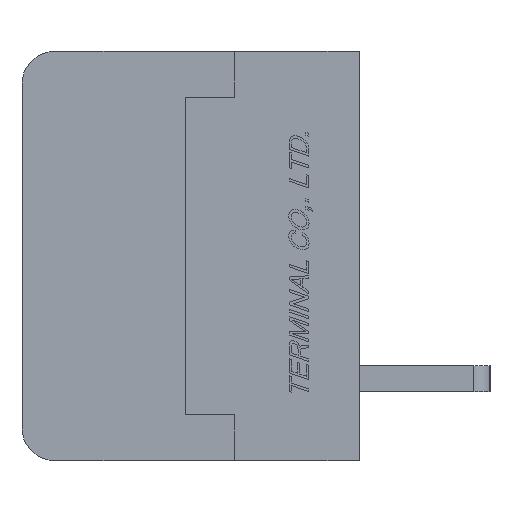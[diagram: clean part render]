
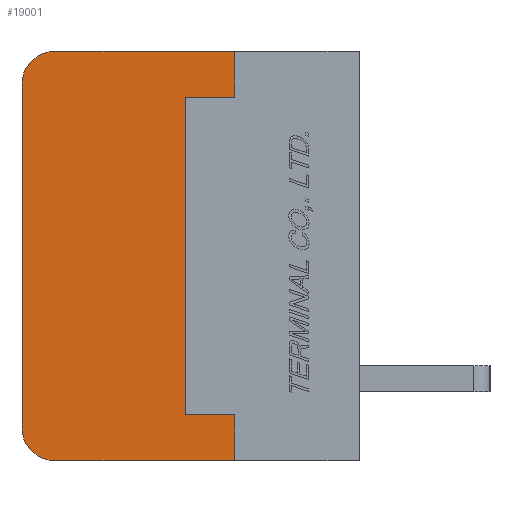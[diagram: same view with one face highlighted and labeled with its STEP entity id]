
A CAD part, left-side view. The second image highlights one B-rep face of the part: STEP entity #19001.
In plain terms, the highlighted planar face has unit normal (-1, 0, 0).
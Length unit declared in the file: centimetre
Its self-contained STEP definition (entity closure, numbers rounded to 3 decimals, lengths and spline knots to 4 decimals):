
#1049=CIRCLE('',#32279,0.1);
#1051=CIRCLE('',#32282,0.1);
#2619=VERTEX_POINT('',#29606);
#2620=VERTEX_POINT('',#29608);
#2622=VERTEX_POINT('',#29614);
#2624=VERTEX_POINT('',#29620);
#2625=VERTEX_POINT('',#29627);
#2626=VERTEX_POINT('',#29628);
#2627=VERTEX_POINT('',#29631);
#2628=VERTEX_POINT('',#29633);
#2629=VERTEX_POINT('',#29635);
#2630=VERTEX_POINT('',#29637);
#4631=VECTOR('',#23272,1.);
#4637=VECTOR('',#23292,1.);
#4638=VECTOR('',#23293,1.);
#4639=VECTOR('',#23294,1.);
#4640=VECTOR('',#23295,1.);
#4641=VECTOR('',#23296,1.);
#4642=VECTOR('',#23297,1.);
#4643=VECTOR('',#23298,1.);
#6711=LINE('',#29607,#4631);
#6717=LINE('',#29626,#4637);
#6718=LINE('',#29629,#4638);
#6719=LINE('',#29630,#4639);
#6720=LINE('',#29632,#4640);
#6721=LINE('',#29634,#4641);
#6722=LINE('',#29636,#4642);
#6723=LINE('',#29638,#4643);
#9490=EDGE_CURVE('',#2619,#2620,#6711,.T.);
#9494=EDGE_CURVE('',#2622,#2619,#1049,.T.);
#9496=EDGE_CURVE('',#2620,#2624,#1051,.T.);
#9500=EDGE_CURVE('',#2625,#2626,#6717,.T.);
#9501=EDGE_CURVE('',#2624,#2625,#6718,.T.);
#9502=EDGE_CURVE('',#2627,#2622,#6719,.T.);
#9503=EDGE_CURVE('',#2628,#2627,#6720,.T.);
#9504=EDGE_CURVE('',#2629,#2628,#6721,.T.);
#9505=EDGE_CURVE('',#2630,#2629,#6722,.T.);
#9506=EDGE_CURVE('',#2626,#2630,#6723,.T.);
#14666=ORIENTED_EDGE('',*,*,#9500,.F.);
#14667=ORIENTED_EDGE('',*,*,#9501,.F.);
#14668=ORIENTED_EDGE('',*,*,#9496,.F.);
#14669=ORIENTED_EDGE('',*,*,#9490,.F.);
#14670=ORIENTED_EDGE('',*,*,#9494,.F.);
#14671=ORIENTED_EDGE('',*,*,#9502,.F.);
#14672=ORIENTED_EDGE('',*,*,#9503,.F.);
#14673=ORIENTED_EDGE('',*,*,#9504,.F.);
#14674=ORIENTED_EDGE('',*,*,#9505,.F.);
#14675=ORIENTED_EDGE('',*,*,#9506,.F.);
#16734=EDGE_LOOP('',(#14666,#14667,#14668,#14669,#14670,#14671,#14672,#14673,
#14674,#14675));
#17902=FACE_BOUND('',#16734,.T.);
#19001=ADVANCED_FACE('',(#17902),#19798,.F.);
#19798=PLANE('',#32284);
#23272=DIRECTION('',(0.,0.,1.));
#23279=DIRECTION('',(1.,0.,0.));
#23280=DIRECTION('',(0.,0.,-0.1));
#23285=DIRECTION('',(1.,0.,0.));
#23286=DIRECTION('',(0.,0.,-0.1));
#23291=DIRECTION('',(1.,0.,0.));
#23292=DIRECTION('',(0.,0.,-1.));
#23293=DIRECTION('',(0.,-1.,0.));
#23294=DIRECTION('',(0.,1.,0.));
#23295=DIRECTION('',(0.,0.,-1.));
#23296=DIRECTION('',(0.,-1.,0.));
#23297=DIRECTION('',(0.,0.,-1.));
#23298=DIRECTION('',(0.,1.,0.));
#29606=CARTESIAN_POINT('',(-0.762,1.03,-0.525));
#29607=CARTESIAN_POINT('',(-0.762,1.03,-0.525));
#29608=CARTESIAN_POINT('',(-0.762,1.03,0.525));
#29614=CARTESIAN_POINT('',(-0.762,0.93,-0.625));
#29615=CARTESIAN_POINT('',(-0.762,0.93,-0.525));
#29619=CARTESIAN_POINT('',(-0.762,0.93,0.525));
#29620=CARTESIAN_POINT('',(-0.762,0.93,0.625));
#29625=CARTESIAN_POINT('',(-0.762,0.5047,0.));
#29626=CARTESIAN_POINT('',(-0.762,0.38,0.625));
#29627=CARTESIAN_POINT('',(-0.762,0.38,0.625));
#29628=CARTESIAN_POINT('',(-0.762,0.38,0.485));
#29629=CARTESIAN_POINT('',(-0.762,0.93,0.625));
#29630=CARTESIAN_POINT('',(-0.762,0.,-0.625));
#29631=CARTESIAN_POINT('',(-0.762,0.38,-0.625));
#29632=CARTESIAN_POINT('',(-0.762,0.38,-0.485));
#29633=CARTESIAN_POINT('',(-0.762,0.38,-0.485));
#29634=CARTESIAN_POINT('',(-0.762,0.53,-0.485));
#29635=CARTESIAN_POINT('',(-0.762,0.53,-0.485));
#29636=CARTESIAN_POINT('',(-0.762,0.53,0.485));
#29637=CARTESIAN_POINT('',(-0.762,0.53,0.485));
#29638=CARTESIAN_POINT('',(-0.762,0.38,0.485));
#32279=AXIS2_PLACEMENT_3D('',#29615,#23279,#23280);
#32282=AXIS2_PLACEMENT_3D('',#29619,#23285,#23286);
#32284=AXIS2_PLACEMENT_3D('',#29625,#23291,$);
